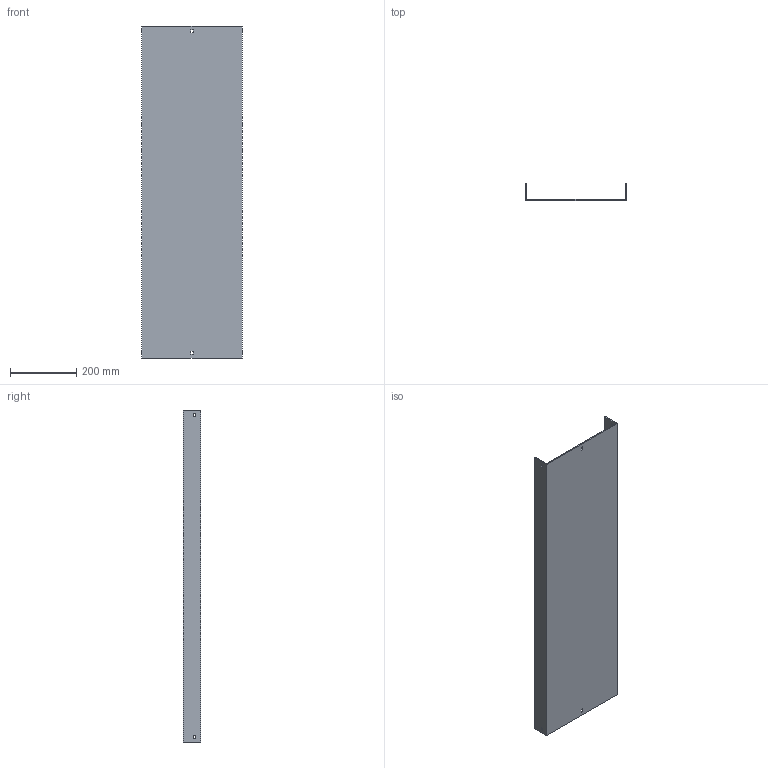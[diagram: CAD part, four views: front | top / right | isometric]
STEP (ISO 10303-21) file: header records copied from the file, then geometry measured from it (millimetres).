
FILE_DESCRIPTION (( 'STEP AP214' ), '1' );
FILE_NAME ('03F1B300.step', '2025-02-21T13:23:09', ( '' ), ( '' ), 'SwSTEP 2.0', 'SolidWorks 2023', '' );
FILE_SCHEMA (( 'AUTOMOTIVE_DESIGN' ));
Length unit declared in the file: millimetre
Products named in the file (1): 03F1B300
Bounding box: 304 x 52 x 1000 mm (x, y, z)
Volume: 1402110.5 mm3; surface area: 811706 mm2
Topology: 1 solids, 1 shells, 34 faces, 96 edges, 64 vertices
Faces by surface type: plane 34
Entity records: 1127 total; most frequent: CARTESIAN_POINT 195, ORIENTED_EDGE 192, DIRECTION 166, LINE 96, VECTOR 96, EDGE_CURVE 96, VERTEX_POINT 64, EDGE_LOOP 46
